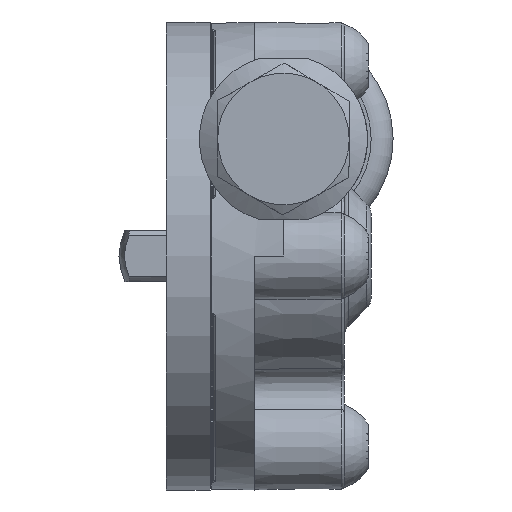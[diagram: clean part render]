
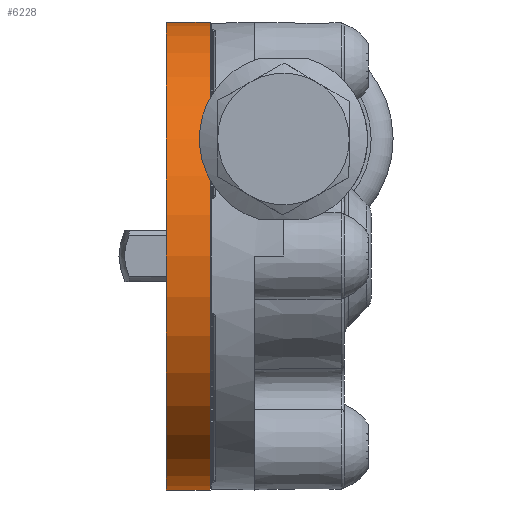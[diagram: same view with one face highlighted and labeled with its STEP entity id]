
A CAD part, front view. The second image highlights one B-rep face of the part: STEP entity #6228.
In plain terms, the highlighted cylindrical face has radius 16 mm (diameter 32 mm), a full revolution.
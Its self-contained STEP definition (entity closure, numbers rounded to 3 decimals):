
#458=CYLINDRICAL_SURFACE('',#7065,16.);
#851=FACE_OUTER_BOUND('',#1267,.T.);
#1267=EDGE_LOOP('',(#5537,#5538,#5539,#5540));
#1658=CIRCLE('',#7023,16.);
#1674=CIRCLE('',#7046,16.);
#2050=LINE('',#13196,#2364);
#2364=VECTOR('',#8841,16.);
#2870=VERTEX_POINT('',#13112);
#2886=VERTEX_POINT('',#13157);
#3751=EDGE_CURVE('',#2870,#2870,#1658,.T.);
#3773=EDGE_CURVE('',#2886,#2886,#1674,.T.);
#3792=EDGE_CURVE('',#2886,#2870,#2050,.T.);
#5537=ORIENTED_EDGE('',*,*,#3773,.F.);
#5538=ORIENTED_EDGE('',*,*,#3792,.T.);
#5539=ORIENTED_EDGE('',*,*,#3751,.F.);
#5540=ORIENTED_EDGE('',*,*,#3792,.F.);
#6228=ADVANCED_FACE('',(#851),#458,.T.);
#7023=AXIS2_PLACEMENT_3D('',#13113,#8743,#8744);
#7046=AXIS2_PLACEMENT_3D('',#13158,#8795,#8796);
#7065=AXIS2_PLACEMENT_3D('',#13195,#8839,#8840);
#8743=DIRECTION('center_axis',(-1.,0.,0.));
#8744=DIRECTION('ref_axis',(0.,-1.,0.));
#8795=DIRECTION('center_axis',(1.,0.,0.));
#8796=DIRECTION('ref_axis',(0.,-1.,0.));
#8839=DIRECTION('center_axis',(1.,0.,0.));
#8840=DIRECTION('ref_axis',(0.,-1.,0.));
#8841=DIRECTION('',(-1.,0.,0.));
#13112=CARTESIAN_POINT('',(0.,16.,0.));
#13113=CARTESIAN_POINT('Origin',(0.,0.,0.));
#13157=CARTESIAN_POINT('',(3.,16.,0.));
#13158=CARTESIAN_POINT('Origin',(3.,0.,0.));
#13195=CARTESIAN_POINT('Origin',(0.,0.,0.));
#13196=CARTESIAN_POINT('',(0.,16.,0.));
